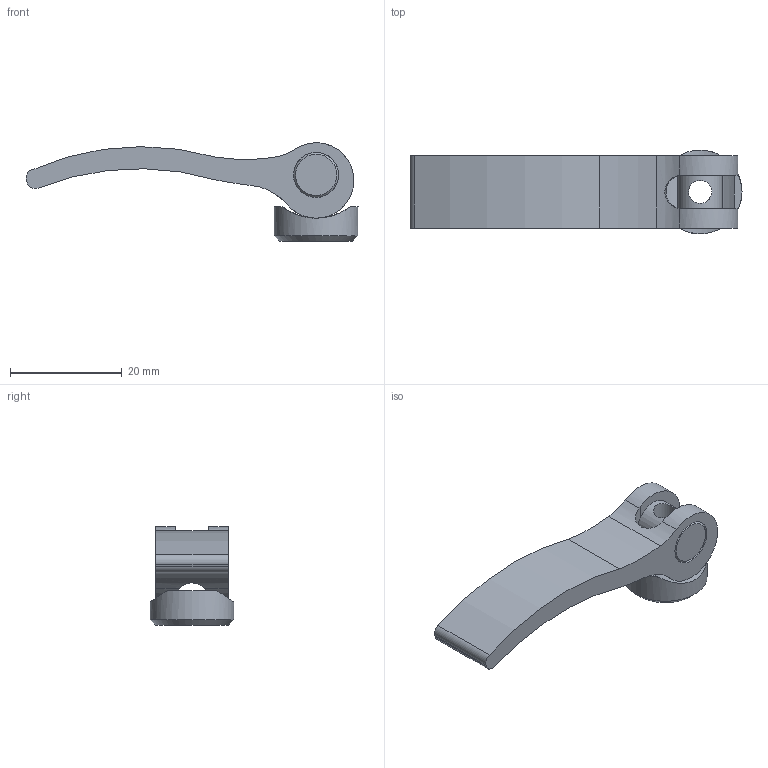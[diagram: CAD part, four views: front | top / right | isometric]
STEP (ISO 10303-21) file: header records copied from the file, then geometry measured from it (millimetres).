
FILE_DESCRIPTION(('STEP AP203'), '1');
FILE_NAME('À00360.11590500 _ Ýêñöåíòðèê 42 ìì', '', ('UNSPECIFIED'), ('UNSPECIFIED'), 'C3D Converter', 'C3D Toolkit', '');
FILE_SCHEMA(('CONFIG_CONTROL_DESIGN'));
Length unit declared in the file: millimetre
Products named in the file (4): А00360.59.03; А00360.59.02; А00360.59.01
Assembly tree (3 placements, depth 2):
  (unnamed)
    А00360.59.03
    А00360.59.02
    А00360.59.01
Bounding box: 59.48 x 14.99 x 17.63 mm (x, y, z)
Volume: 4423.6 mm3; surface area: 3557.2 mm2
Topology: 3 solids, 3 shells, 31 faces, 82 edges, 55 vertices
Faces by surface type: cylinder 18, plane 10, cone 3
Full cylindrical faces by diameter (mm): 4.134 x1, 5.5 x1, 8 x1, 8.1 x2, 15 x1
Entity records: 2030 total; most frequent: CARTESIAN_POINT 962, DIRECTION 168, ORIENTED_EDGE 146, AXIS2_PLACEMENT_3D 74, EDGE_CURVE 73, VERTEX_POINT 55, EDGE_LOOP 46, CIRCLE 39
